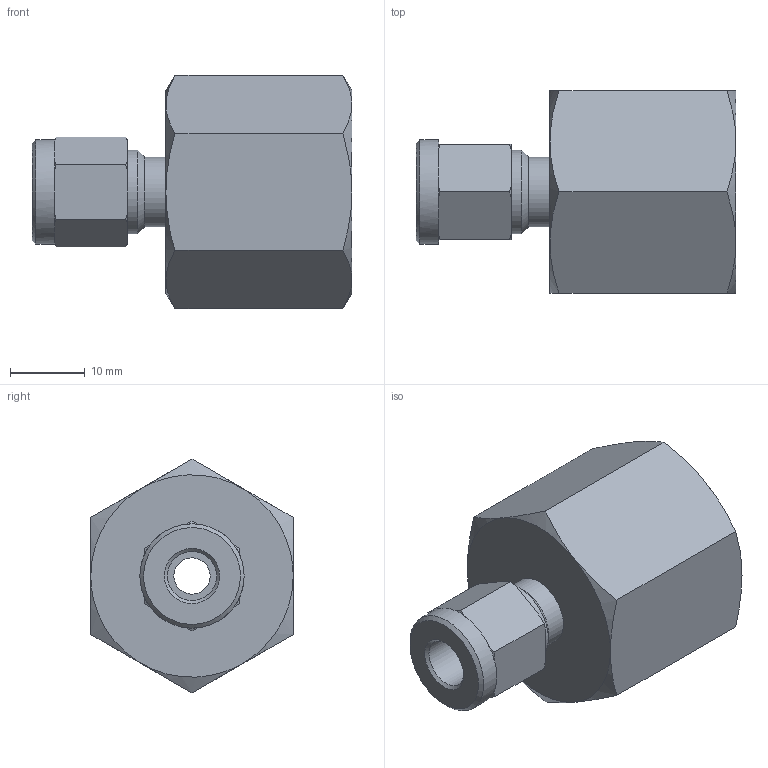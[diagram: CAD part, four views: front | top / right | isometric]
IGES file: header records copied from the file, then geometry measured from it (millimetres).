
Global section: file name: SFC-4-8N; native system: Autodesk Inventor 2016; preprocessor: unknown; author: 배성훈,,11,0; organization: 20151010.075633; date: 20151019.102226; units: millimetre
Bounding box: 42.65 x 27 x 31.18 mm (x, y, z)
Volume: 11335.3 mm3; surface area: 5840.4 mm2
Topology: 1 solids, 1 shells, 54 faces, 136 edges, 88 vertices
Faces by surface type: bspline 54
